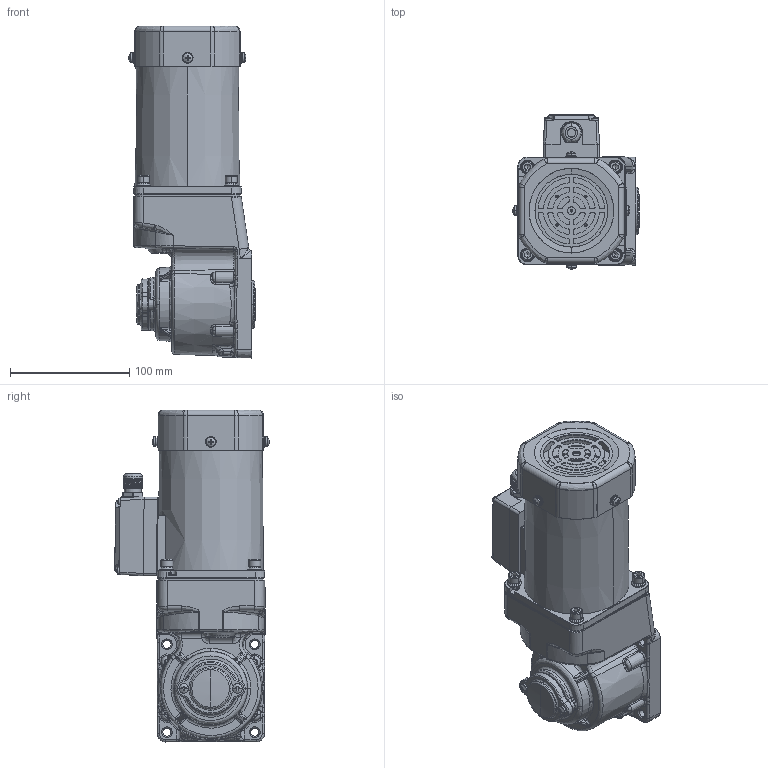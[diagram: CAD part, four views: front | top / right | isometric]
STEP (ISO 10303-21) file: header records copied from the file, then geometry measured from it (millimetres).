
FILE_DESCRIPTION (( 'STEP AP203' ), '1' );
FILE_NAME ('5IK90GU-CFT(5GU3RC-180RC)ÐÂ.STEP', '2023-08-18T05:56:08', ( 'Windows User' ), ( 'P R C' ), 'SwSTEP 2.0', 'SolidWorks 2019', '' );
FILE_SCHEMA (( 'CONFIG_CONTROL_DESIGN' ));
Length unit declared in the file: millimetre
Products named in the file (9): ZD-5GU50RC-505-003______1^5IK90GU-CFT(5GU3RC-180RC)陔(2)_5IK90GU-CFT(5GU3RC-180RC)陔; 90__________-0^5IK90GU-CFT(5GU3RC-180RC)陔(2)_5IK90GU-CFT(5GU3RC-180RC)陔; 90__________^5IK90GU-CFT(5GU3RC-180RC)陔(2)_5IK90GU-CFT(5GU3RC-180RC)陔; 5IK90GU-CFT(5GU3RC-180RC)陔; hexagon socket head cap screws gb_GB_FASTENER_SCREWS_HSHCS M5X12-N^5IK90GU-CFT(5GU3RC-180RC)ÐÂ(2)_5IK90GU-CFT(5GU3RC-180RC)ÐÂ; 90RT____________^5IK90GU-CFT(5GU3RC-180RC)陔(2)_5IK90GU-CFT(5GU3RC-180RC)陔; 5IK90GU-CFT(5GU3RC-180RC)陔(2)^5IK90GU-CFT(5GU3RC-180RC)陔; 5IK90GU-CFT(5GU3RT-180RT)^5IK90GU-CFT(5GU3RC-180RC)ÐÂ(2)_5IK90GU-CFT(5GU3RC-180RC)ÐÂ; cross recessed pan head screws gb_GB_CROSS_SCREWS_TYPE1 M4X6-6  H type-N^5IK90GU-CFT(5GU3RC-180RC)ÐÂ(2)_5IK90GU-CFT(5GU3RC-180RC)ÐÂ
Assembly tree (12 placements, depth 3):
  5IK90GU-CFT(5GU3RC-180RC)陔
    5IK90GU-CFT(5GU3RC-180RC)陔(2)^5IK90GU-CFT(5GU3RC-180RC)陔
      90__________^5IK90GU-CFT(5GU3RC-180RC)陔(2)_5IK90GU-CFT(5GU3RC-180RC)陔
      90RT____________^5IK90GU-CFT(5GU3RC-180RC)陔(2)_5IK90GU-CFT(5GU3RC-180RC)陔
      90__________-0^5IK90GU-CFT(5GU3RC-180RC)陔(2)_5IK90GU-CFT(5GU3RC-180RC)陔
      hexagon socket head cap screws gb_GB_FASTENER_SCREWS_HSHCS M5X12-N^5IK90GU-CFT(5GU3RC-180RC)ÐÂ(2)_5IK90GU-CFT(5GU3RC-180RC)ÐÂ  x4
      ZD-5GU50RC-505-003______1^5IK90GU-CFT(5GU3RC-180RC)陔(2)_5IK90GU-CFT(5GU3RC-180RC)陔
      cross recessed pan head screws gb_GB_CROSS_SCREWS_TYPE1 M4X6-6  H type-N^5IK90GU-CFT(5GU3RC-180RC)ÐÂ(2)_5IK90GU-CFT(5GU3RC-180RC)ÐÂ  x2
      5IK90GU-CFT(5GU3RT-180RT)^5IK90GU-CFT(5GU3RC-180RC)ÐÂ(2)_5IK90GU-CFT(5GU3RC-180RC)ÐÂ
Bounding box: 105.81 x 129.3 x 278.04 mm (x, y, z)
Volume: 1666157.7 mm3; surface area: 223277.1 mm2
Topology: 45 solids, 46 shells, 2943 faces, 7366 edges, 4437 vertices
Faces by surface type: cylinder 810, plane 773, cone 697, bspline 572, torus 85, sphere 6
Entity records: 118646 total; most frequent: CARTESIAN_POINT 54523, ORIENTED_EDGE 13966, DIRECTION 12346, EDGE_CURVE 6983, AXIS2_PLACEMENT_3D 4917, VERTEX_POINT 4294, EDGE_LOOP 3001, FACE_OUTER_BOUND 2843
